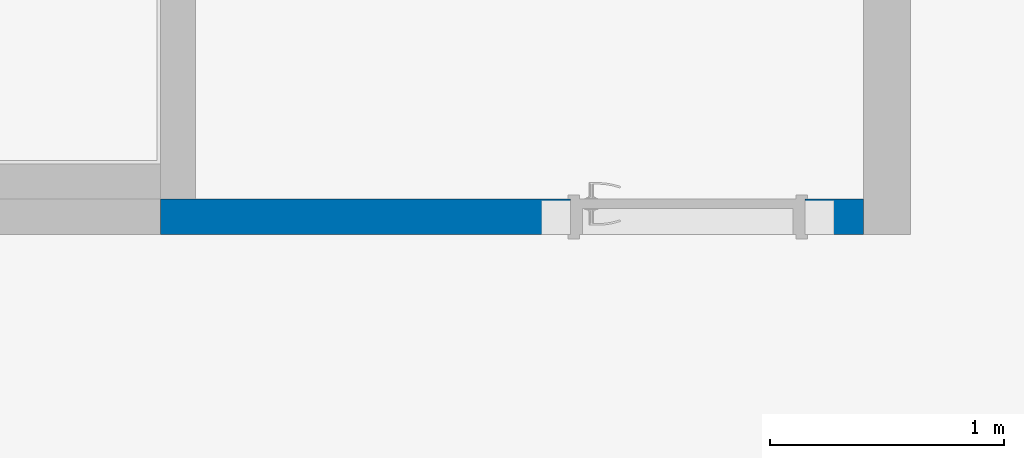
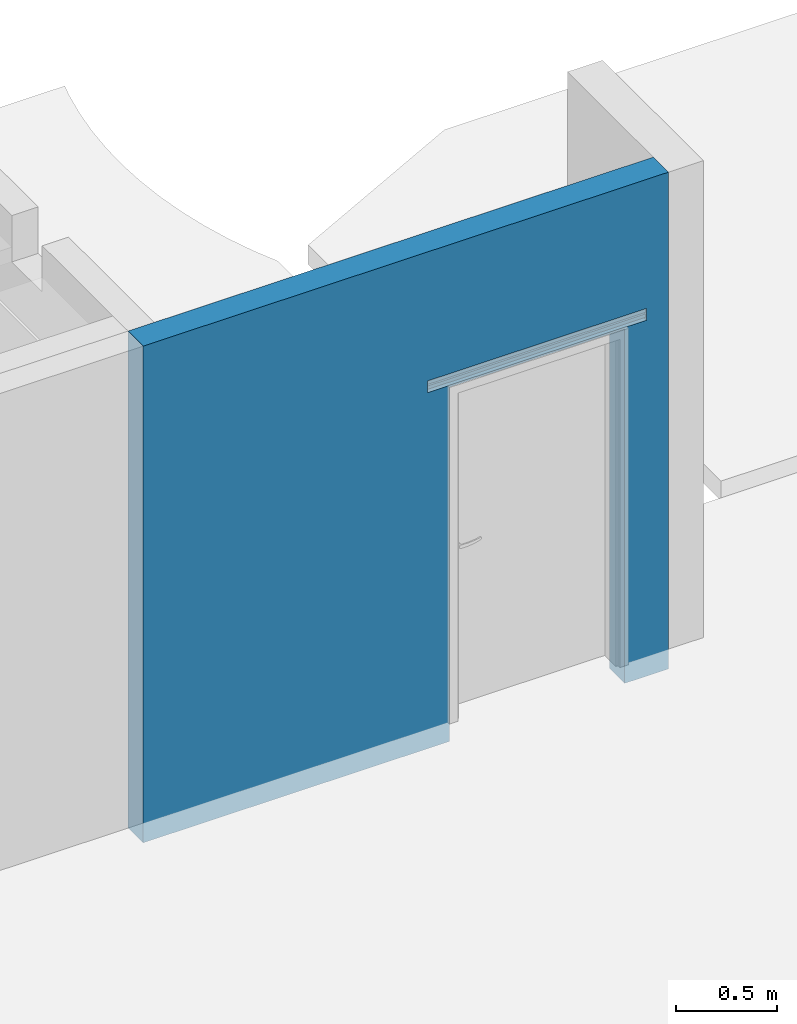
# One storey, part 6 of 17: 1 wall, 1 opening.
"""IFC4 building model written with IfcOpenShell, lengths in millimetres."""

from ifc_helpers import new_model, entity, si_unit, converted_unit, derived_unit, direction, frame, origin_with_axes, place, context, subcontext, project, spatial, polygons, material, constituent, constituent_set, type_object, element, save


model = new_model("IFC4")

# Units and contexts
model_context = context("Model", 3, precision=0.01, world=origin_with_axes(), true_north=direction((0.0, 1.0)))
body_context = subcontext(model_context, "Body", "Model", "MODEL_VIEW")
ifc_project = project(units=[si_unit("LENGTHUNIT", "METRE", prefix="MILLI"), si_unit("AREAUNIT", "SQUARE_METRE"), si_unit("VOLUMEUNIT", "CUBIC_METRE"), converted_unit("PLANEANGLEUNIT", "DEGREE", entity("IfcPlaneAngleMeasure", 0.0174532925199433), si_unit("PLANEANGLEUNIT", "RADIAN"), dimensions=[0, 0, 0, 0, 0, 0, 0]), converted_unit("TIMEUNIT", "Year", entity("IfcTimeMeasure", 31557600.0), si_unit("TIMEUNIT", "SECOND"), dimensions=[0, 0, 1, 0, 0, 0, 0]), si_unit("MASSUNIT", "GRAM", prefix="KILO"), si_unit("THERMODYNAMICTEMPERATUREUNIT", "DEGREE_CELSIUS"), si_unit("LUMINOUSINTENSITYUNIT", "LUMEN"), si_unit("ENERGYUNIT", "JOULE", prefix="MEGA"), derived_unit("THERMALCONDUCTANCEUNIT", [(si_unit("POWERUNIT", "WATT"), 1), (si_unit("LENGTHUNIT", "METRE"), -1), (si_unit("THERMODYNAMICTEMPERATUREUNIT", "KELVIN"), -1)]), derived_unit("SPECIFICHEATCAPACITYUNIT", [(si_unit("ENERGYUNIT", "JOULE"), 1), (si_unit("MASSUNIT", "GRAM", prefix="KILO"), -1), (si_unit("THERMODYNAMICTEMPERATUREUNIT", "KELVIN"), -1)]), derived_unit("MASSDENSITYUNIT", [(si_unit("MASSUNIT", "GRAM", prefix="KILO"), 1), (si_unit("VOLUMEUNIT", "CUBIC_METRE"), -1)])], contexts=[model_context])

# Site, building, storey
site_placement = place(None, origin_with_axes())
site = spatial("IfcSite", under=ifc_project, at=site_placement, Name="Exteriér", CompositionType="ELEMENT")
building_placement = place(site_placement, origin_with_axes())
building = spatial("IfcBuilding", under=site, at=building_placement, Name="Univerzitní lezecké centrum", CompositionType="ELEMENT")
storey_placement = place(building_placement, frame((0.0, 0.0, 3200.0), z_axis=(0.0, 0.0, 1.0), x_axis=(1.0, 0.0, 0.0)))
storey = spatial("IfcBuildingStorey", under=building, at=storey_placement, Name="2.NP", CompositionType="ELEMENT", Elevation=3200.0)

# Wall, opening
ifc_material = material(Name="Keramické tvárnice nenosné tl. 150 mm")
ifc_constituent = constituent(ifc_material, Name="Keramické tvárnice nenosné tl. 150 mm")
ifc_constituent_set = constituent_set(constituents=[ifc_constituent], Name="!Vnitřní keramická stěna 150 mm - nenosná")
wall_type = type_object("IfcWallType", Name="!Vnitřní keramická stěna 150 mm - nenosná 150", PredefinedType="NOTDEFINED")
wall_placement = place(storey_placement, frame((199.7939913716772, -1149.61279398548, -120.000000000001), z_axis=(0.0, 0.0, 1.0), x_axis=(-1.0, 0.0, 0.0)))
wall = element("IfcWall", 1, at=wall_placement, inside=storey, type_object=wall_type, material=ifc_constituent_set, Name="St07", PredefinedType="NOTDEFINED", context=body_context, shape_type="Tessellation", body=[
    polygons([(1450.000000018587, 149.9999999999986, 120.000000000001), (1449.999923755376, 150.0000433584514, 0.500000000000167), (1449.999923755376, -2.992543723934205e-05, 0.500000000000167), (1450.000000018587, 0.0, 120.000000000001), (450.0000000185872, 149.9999999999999, 120.000000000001), (450.000065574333, 150.0000433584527, 0.500000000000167), (450.000065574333, 150.0000433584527, 0.0), (199.9983302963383, 149.9999999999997, 0.0), (199.9983302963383, 150.0000000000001, 2999.999999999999), (3200.145758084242, 149.9999999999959, 2999.999999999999), (3200.145758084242, 149.9999999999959, 0.0), (1449.999923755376, 150.0000433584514, 0.0), (1450.000000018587, 149.9999999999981, 2140.000000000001), (450.0000000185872, 149.9999999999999, 2140.000000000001), (325.0000000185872, 150.0000000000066, 2221.0), (325.0000000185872, 150.0000000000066, 2150.000000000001), (1575.000000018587, 150.000000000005, 2150.000000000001), (1575.000000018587, 150.000000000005, 2221.0), (1449.999923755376, -2.992543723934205e-05, 0.0), (200.0000000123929, 0.0, 0.0), (450.0000655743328, -2.992543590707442e-05, 0.0), (450.0000655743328, -2.992543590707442e-05, 0.500000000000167), (450.0000000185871, 0.0, 120.000000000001), (450.0000000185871, 0.0, 2140.000000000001), (1450.000000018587, 0.0, 2140.000000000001), (3200.145758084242, 0.0, 0.0), (3200.145758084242, 0.0, 2999.999999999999), (200.0000000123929, 0.0, 2999.999999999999), (325.0000000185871, 5.725001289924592, 2221.0), (325.0000000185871, 5.725001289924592, 2150.000000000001), (325.0000000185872, 116.6675000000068, 2180.499637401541), (325.0000000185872, 138.5575000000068, 2180.499637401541), (325.0000000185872, 138.5575000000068, 2160.49963740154), (325.0000000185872, 116.6675000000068, 2160.49963740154), (325.0000000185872, 116.6675000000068, 2210.500000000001), (325.0000000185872, 138.5575000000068, 2210.500000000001), (325.0000000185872, 138.5575000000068, 2190.5), (325.0000000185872, 116.6675000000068, 2190.5), (325.0000000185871, 39.05863622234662, 2180.499637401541), (325.0000000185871, 39.05863622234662, 2160.49963740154), (325.0000000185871, 17.16863622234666, 2160.49963740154), (325.0000000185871, 17.16863622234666, 2180.499637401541), (325.0000000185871, 17.16863622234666, 2190.5), (325.0000000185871, 17.16863622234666, 2210.500000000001), (325.0000000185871, 39.05863622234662, 2210.500000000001), (325.0000000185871, 39.05863622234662, 2190.5), (1575.000000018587, 5.725001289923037, 2150.000000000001), (1575.000000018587, 5.725001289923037, 2221.0), (1575.000000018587, 116.6675000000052, 2180.499637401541), (1575.000000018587, 116.6675000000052, 2160.49963740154), (1575.000000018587, 138.5575000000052, 2160.49963740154), (1575.000000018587, 138.5575000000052, 2180.499637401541), (1575.000000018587, 116.6675000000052, 2210.500000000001), (1575.000000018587, 116.6675000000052, 2190.5), (1575.000000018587, 138.5575000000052, 2190.5), (1575.000000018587, 138.5575000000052, 2210.500000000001), (1575.000000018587, 39.05863622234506, 2180.499637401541), (1575.000000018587, 17.1686362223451, 2180.499637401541), (1575.000000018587, 17.1686362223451, 2160.49963740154), (1575.000000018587, 39.05863622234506, 2160.49963740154), (1575.000000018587, 17.1686362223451, 2190.5), (1575.000000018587, 39.05863622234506, 2190.5), (1575.000000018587, 39.05863622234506, 2210.500000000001), (1575.000000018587, 17.1686362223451, 2210.500000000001)], [[[1, 2, 3, 4]], [[5, 6, 7, 8, 9, 10, 11, 12, 2, 1, 13, 14], [15, 16, 17, 18]], [[12, 19, 3, 2]], [[20, 21, 22, 23, 24, 25, 4, 3, 19, 26, 27, 28]], [[25, 13, 1, 4]], [[23, 22, 6, 5]], [[7, 6, 22, 21]], [[8, 7, 21, 20]], [[28, 9, 8, 20]], [[27, 10, 9, 28]], [[27, 26, 11, 10]], [[26, 19, 12, 11]], [[24, 14, 13, 25]], [[23, 5, 14, 24]], [[16, 15, 29, 30], [31, 32, 33, 34], [35, 36, 37, 38], [39, 40, 41, 42], [43, 44, 45, 46]], [[30, 47, 17, 16]], [[47, 48, 18, 17], [49, 50, 51, 52], [53, 54, 55, 56], [57, 58, 59, 60], [61, 62, 63, 64]], [[29, 15, 18, 48]], [[29, 48, 47, 30]], [[31, 49, 52, 32]], [[32, 52, 51, 33]], [[33, 51, 50, 34]], [[34, 50, 49, 31]], [[35, 53, 56, 36]], [[36, 56, 55, 37]], [[37, 55, 54, 38]], [[38, 54, 53, 35]], [[39, 57, 60, 40]], [[40, 60, 59, 41]], [[41, 59, 58, 42]], [[42, 58, 57, 39]], [[43, 61, 64, 44]], [[44, 64, 63, 45]], [[45, 63, 62, 46]], [[46, 62, 61, 43]]], closed=True),
])
opening_placement = place(wall_placement, frame((950.0000000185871, 0.0, 120.000000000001), z_axis=(0.0, 0.0, 1.0), x_axis=(1.0, 0.0, 0.0)))
element("IfcOpeningElement", 2, at=opening_placement, cuts=wall, Name="D17", context=body_context, identifier="Reference", shape_type="Tessellation", body=[
    polygons([(499.9999999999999, -1.00000000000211, 2020.0), (-500.0, -1.000000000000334, 2020.0), (-500.0, -1.000000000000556, 0.0), (500.0000000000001, -1.000000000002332, 0.0), (511.9999999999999, -1.000000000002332, 0.0), (511.9999999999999, -1.000000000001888, 2032.0), (-512.0, -1.000000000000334, 2032.0), (-512.0, -1.000000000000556, 0.0), (499.9999999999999, 0.0, 0.0), (-500.0, 0.0, 0.0), (-499.9999999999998, 149.9999999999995, 0.0), (-500.0, 151.0000000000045, 0.0), (500.0000000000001, 151.0000000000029, 0.0), (500.0000000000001, 149.9999999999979, 0.0), (511.9999999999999, 0.0, 0.0), (511.9999999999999, 0.0, 2032.0), (-512.0, 0.0, 2032.0), (-512.0, 0.0, 0.0), (-500.0, 0.0, 2020.0), (-499.9999999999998, 149.9999999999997, 2020.0), (-511.9999999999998, 149.9999999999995, 0.0), (-511.9999999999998, 151.0000000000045, 0.0), (-511.9999999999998, 151.0000000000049, 2032.0), (512.0000000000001, 151.0000000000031, 2032.0), (512.0000000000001, 151.0000000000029, 0.0), (512.0000000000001, 149.9999999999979, 0.0), (499.9999999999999, 0.0, 2020.0), (500.0000000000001, 149.9999999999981, 2020.0), (512.0000000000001, 149.9999999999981, 2032.0), (-511.9999999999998, 149.9999999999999, 2032.0)], [[[1, 2, 3, 4]], [[3, 2, 1, 4, 5, 6, 7, 8]], [[9, 4, 3, 10, 11, 12, 13, 14]], [[4, 9, 15, 5]], [[15, 16, 6, 5]], [[16, 17, 7, 6]], [[17, 18, 8, 7]], [[10, 3, 8, 18]], [[10, 19, 20, 11]], [[12, 11, 21, 22]], [[13, 12, 22, 23, 24, 25]], [[14, 13, 25, 26]], [[27, 9, 14, 28]], [[27, 19, 10, 18, 17, 16, 15, 9]], [[19, 27, 28, 20]], [[11, 20, 28, 14, 26, 29, 30, 21]], [[21, 30, 23, 22]], [[30, 29, 24, 23]], [[29, 26, 25, 24]]], closed=True),
])

save(model, "model.ifc")
